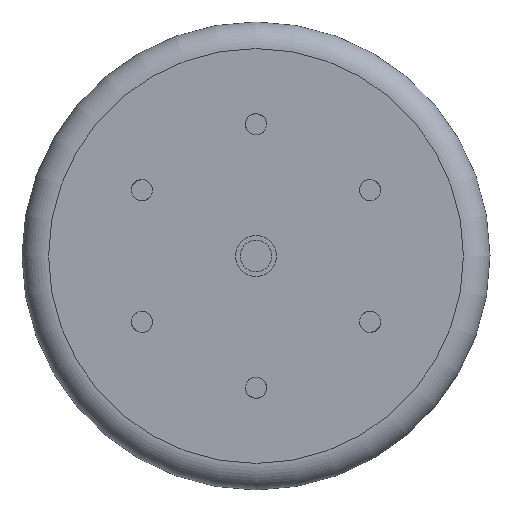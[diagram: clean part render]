
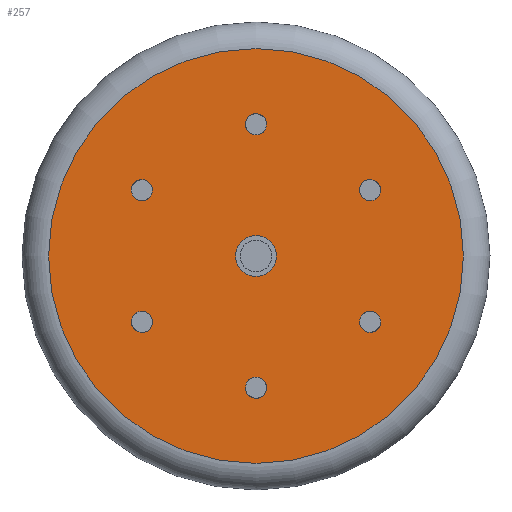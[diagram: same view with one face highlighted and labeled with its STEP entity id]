
A CAD part, left-side view. The second image highlights one B-rep face of the part: STEP entity #257.
In plain terms, the highlighted planar face has unit normal (-1, 0, 0).
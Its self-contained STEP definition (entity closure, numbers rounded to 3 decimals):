
#25=CIRCLE('',#284,157.5);
#30=CIRCLE('',#295,15.5);
#43=PLANE('',#294);
#73=ORIENTED_EDGE('',*,*,#92,.F.);
#74=ORIENTED_EDGE('',*,*,#94,.F.);
#75=ORIENTED_EDGE('',*,*,#96,.F.);
#76=ORIENTED_EDGE('',*,*,#98,.F.);
#77=ORIENTED_EDGE('',*,*,#100,.F.);
#78=ORIENTED_EDGE('',*,*,#107,.F.);
#79=ORIENTED_EDGE('',*,*,#108,.F.);
#80=ORIENTED_EDGE('',*,*,#102,.T.);
#92=EDGE_CURVE('',#114,#114,#136,.F.);
#94=EDGE_CURVE('',#116,#116,#138,.F.);
#96=EDGE_CURVE('',#118,#118,#140,.F.);
#98=EDGE_CURVE('',#120,#120,#142,.F.);
#100=EDGE_CURVE('',#122,#122,#144,.F.);
#102=EDGE_CURVE('',#124,#124,#25,.T.);
#107=EDGE_CURVE('',#129,#129,#145,.F.);
#108=EDGE_CURVE('',#130,#130,#30,.T.);
#114=VERTEX_POINT('',#460);
#116=VERTEX_POINT('',#561);
#118=VERTEX_POINT('',#662);
#120=VERTEX_POINT('',#763);
#122=VERTEX_POINT('',#864);
#124=VERTEX_POINT('',#870);
#129=VERTEX_POINT('',#896);
#130=VERTEX_POINT('',#898);
#136=B_SPLINE_CURVE_WITH_KNOTS('',3,(#449,#450,#451,#452,#453,#454,#455,
#456,#457,#458,#459),.UNSPECIFIED.,.T.,.F.,(1,1,1,1,1,1,1,1,1,1,1,1,1,1,
1),(-0.019,-0.013,-0.006,0.,0.006,
0.013,0.019,0.025,0.031,
0.038,0.044,0.05,0.057,
0.063,0.069),.UNSPECIFIED.);
#138=B_SPLINE_CURVE_WITH_KNOTS('',3,(#550,#551,#552,#553,#554,#555,#556,
#557,#558,#559,#560),.UNSPECIFIED.,.T.,.F.,(1,1,1,1,1,1,1,1,1,1,1,1,1,1,
1),(-0.019,-0.013,-0.006,0.,0.006,
0.013,0.019,0.025,0.031,
0.038,0.044,0.05,0.057,
0.063,0.069),.UNSPECIFIED.);
#140=B_SPLINE_CURVE_WITH_KNOTS('',3,(#651,#652,#653,#654,#655,#656,#657,
#658,#659,#660,#661),.UNSPECIFIED.,.T.,.F.,(1,1,1,1,1,1,1,1,1,1,1,1,1,1,
1),(-0.019,-0.013,-0.006,0.,0.006,
0.013,0.019,0.025,0.031,
0.038,0.044,0.05,0.057,
0.063,0.069),.UNSPECIFIED.);
#142=B_SPLINE_CURVE_WITH_KNOTS('',3,(#752,#753,#754,#755,#756,#757,#758,
#759,#760,#761,#762),.UNSPECIFIED.,.T.,.F.,(1,1,1,1,1,1,1,1,1,1,1,1,1,1,
1),(-0.019,-0.013,-0.006,0.,0.006,
0.013,0.019,0.025,0.031,
0.038,0.044,0.05,0.057,
0.063,0.069),.UNSPECIFIED.);
#144=B_SPLINE_CURVE_WITH_KNOTS('',3,(#853,#854,#855,#856,#857,#858,#859,
#860,#861,#862,#863),.UNSPECIFIED.,.T.,.F.,(1,1,1,1,1,1,1,1,1,1,1,1,1,1,
1),(-0.019,-0.013,-0.006,0.,0.006,
0.013,0.019,0.025,0.031,
0.038,0.044,0.05,0.057,
0.063,0.069),.UNSPECIFIED.);
#145=B_SPLINE_CURVE_WITH_KNOTS('',3,(#885,#886,#887,#888,#889,#890,#891,
#892,#893,#894,#895),.UNSPECIFIED.,.T.,.F.,(1,1,1,1,1,1,1,1,1,1,1,1,1,1,
1),(-0.019,-0.013,-0.006,0.,0.006,
0.013,0.019,0.025,0.031,
0.038,0.044,0.05,0.057,
0.063,0.069),.UNSPECIFIED.);
#173=EDGE_LOOP('',(#73));
#174=EDGE_LOOP('',(#74));
#175=EDGE_LOOP('',(#75));
#176=EDGE_LOOP('',(#76));
#177=EDGE_LOOP('',(#77));
#178=EDGE_LOOP('',(#78));
#179=EDGE_LOOP('',(#79));
#180=EDGE_LOOP('',(#80));
#217=FACE_BOUND('',#173,.T.);
#218=FACE_BOUND('',#174,.T.);
#219=FACE_BOUND('',#175,.T.);
#220=FACE_BOUND('',#176,.T.);
#221=FACE_BOUND('',#177,.T.);
#222=FACE_BOUND('',#178,.T.);
#223=FACE_BOUND('',#179,.T.);
#224=FACE_BOUND('',#180,.T.);
#257=ADVANCED_FACE('',(#217,#218,#219,#220,#221,#222,#223,#224),#43,.T.);
#284=AXIS2_PLACEMENT_3D('',#869,#320,#321);
#294=AXIS2_PLACEMENT_3D('',#884,#340,#341);
#295=AXIS2_PLACEMENT_3D('',#897,#342,#343);
#320=DIRECTION('',(-1.,0.,0.));
#321=DIRECTION('',(0.,0.,1.));
#340=DIRECTION('',(-1.,0.,0.));
#341=DIRECTION('',(0.,0.,1.));
#342=DIRECTION('',(-1.,0.,0.));
#343=DIRECTION('',(0.,-1.,0.));
#449=CARTESIAN_POINT('',(-70.5,88.897,58.563));
#450=CARTESIAN_POINT('',(-70.5,82.17,57.678));
#451=CARTESIAN_POINT('',(-70.5,78.039,52.295));
#452=CARTESIAN_POINT('',(-70.5,78.925,45.567));
#453=CARTESIAN_POINT('',(-70.5,84.308,41.437));
#454=CARTESIAN_POINT('',(-70.5,91.035,42.322));
#455=CARTESIAN_POINT('',(-70.5,95.166,47.705));
#456=CARTESIAN_POINT('',(-70.5,94.28,54.433));
#457=CARTESIAN_POINT('',(-70.5,88.897,58.563));
#458=CARTESIAN_POINT('',(-70.5,82.17,57.678));
#459=CARTESIAN_POINT('',(-70.5,78.039,52.295));
#460=CARTESIAN_POINT('',(-70.5,82.603,56.928));
#550=CARTESIAN_POINT('',(-70.5,95.166,-47.706));
#551=CARTESIAN_POINT('',(-70.5,91.035,-42.322));
#552=CARTESIAN_POINT('',(-70.5,84.308,-41.437));
#553=CARTESIAN_POINT('',(-70.5,78.925,-45.567));
#554=CARTESIAN_POINT('',(-70.5,78.039,-52.295));
#555=CARTESIAN_POINT('',(-70.5,82.169,-57.677));
#556=CARTESIAN_POINT('',(-70.5,88.897,-58.564));
#557=CARTESIAN_POINT('',(-70.5,94.28,-54.433));
#558=CARTESIAN_POINT('',(-70.5,95.166,-47.706));
#559=CARTESIAN_POINT('',(-70.5,91.035,-42.322));
#560=CARTESIAN_POINT('',(-70.5,84.308,-41.437));
#561=CARTESIAN_POINT('',(-70.5,90.603,-43.072));
#651=CARTESIAN_POINT('',(-70.5,6.269,-106.269));
#652=CARTESIAN_POINT('',(-70.5,8.866,-100.));
#653=CARTESIAN_POINT('',(-70.5,6.269,-93.731));
#654=CARTESIAN_POINT('',(-70.5,0.,-91.134));
#655=CARTESIAN_POINT('',(-70.5,-6.269,-93.731));
#656=CARTESIAN_POINT('',(-70.5,-8.865,-99.999));
#657=CARTESIAN_POINT('',(-70.5,-6.269,-106.269));
#658=CARTESIAN_POINT('',(-70.5,0.,-108.866));
#659=CARTESIAN_POINT('',(-70.5,6.269,-106.269));
#660=CARTESIAN_POINT('',(-70.5,8.866,-100.));
#661=CARTESIAN_POINT('',(-70.5,6.269,-93.731));
#662=CARTESIAN_POINT('',(-70.5,8.,-100.));
#752=CARTESIAN_POINT('',(-70.5,-88.897,-58.563));
#753=CARTESIAN_POINT('',(-70.5,-82.17,-57.678));
#754=CARTESIAN_POINT('',(-70.5,-78.039,-52.295));
#755=CARTESIAN_POINT('',(-70.5,-78.925,-45.567));
#756=CARTESIAN_POINT('',(-70.5,-84.308,-41.437));
#757=CARTESIAN_POINT('',(-70.5,-91.035,-42.322));
#758=CARTESIAN_POINT('',(-70.5,-95.166,-47.705));
#759=CARTESIAN_POINT('',(-70.5,-94.28,-54.433));
#760=CARTESIAN_POINT('',(-70.5,-88.897,-58.563));
#761=CARTESIAN_POINT('',(-70.5,-82.17,-57.678));
#762=CARTESIAN_POINT('',(-70.5,-78.039,-52.295));
#763=CARTESIAN_POINT('',(-70.5,-82.603,-56.928));
#853=CARTESIAN_POINT('',(-70.5,-95.166,47.706));
#854=CARTESIAN_POINT('',(-70.5,-91.035,42.322));
#855=CARTESIAN_POINT('',(-70.5,-84.308,41.437));
#856=CARTESIAN_POINT('',(-70.5,-78.925,45.567));
#857=CARTESIAN_POINT('',(-70.5,-78.039,52.295));
#858=CARTESIAN_POINT('',(-70.5,-82.169,57.677));
#859=CARTESIAN_POINT('',(-70.5,-88.897,58.564));
#860=CARTESIAN_POINT('',(-70.5,-94.28,54.433));
#861=CARTESIAN_POINT('',(-70.5,-95.166,47.706));
#862=CARTESIAN_POINT('',(-70.5,-91.035,42.322));
#863=CARTESIAN_POINT('',(-70.5,-84.308,41.437));
#864=CARTESIAN_POINT('',(-70.5,-90.603,43.072));
#869=CARTESIAN_POINT('',(-70.5,0.,0.));
#870=CARTESIAN_POINT('',(-70.5,0.,157.5));
#884=CARTESIAN_POINT('',(-70.5,0.,0.));
#885=CARTESIAN_POINT('',(-70.5,-6.269,106.269));
#886=CARTESIAN_POINT('',(-70.5,-8.866,100.));
#887=CARTESIAN_POINT('',(-70.5,-6.269,93.731));
#888=CARTESIAN_POINT('',(-70.5,0.,91.134));
#889=CARTESIAN_POINT('',(-70.5,6.269,93.731));
#890=CARTESIAN_POINT('',(-70.5,8.865,99.999));
#891=CARTESIAN_POINT('',(-70.5,6.269,106.269));
#892=CARTESIAN_POINT('',(-70.5,0.,108.866));
#893=CARTESIAN_POINT('',(-70.5,-6.269,106.269));
#894=CARTESIAN_POINT('',(-70.5,-8.866,100.));
#895=CARTESIAN_POINT('',(-70.5,-6.269,93.731));
#896=CARTESIAN_POINT('',(-70.5,-8.,100.));
#897=CARTESIAN_POINT('',(-70.5,0.,0.));
#898=CARTESIAN_POINT('',(-70.5,-15.5,0.));
